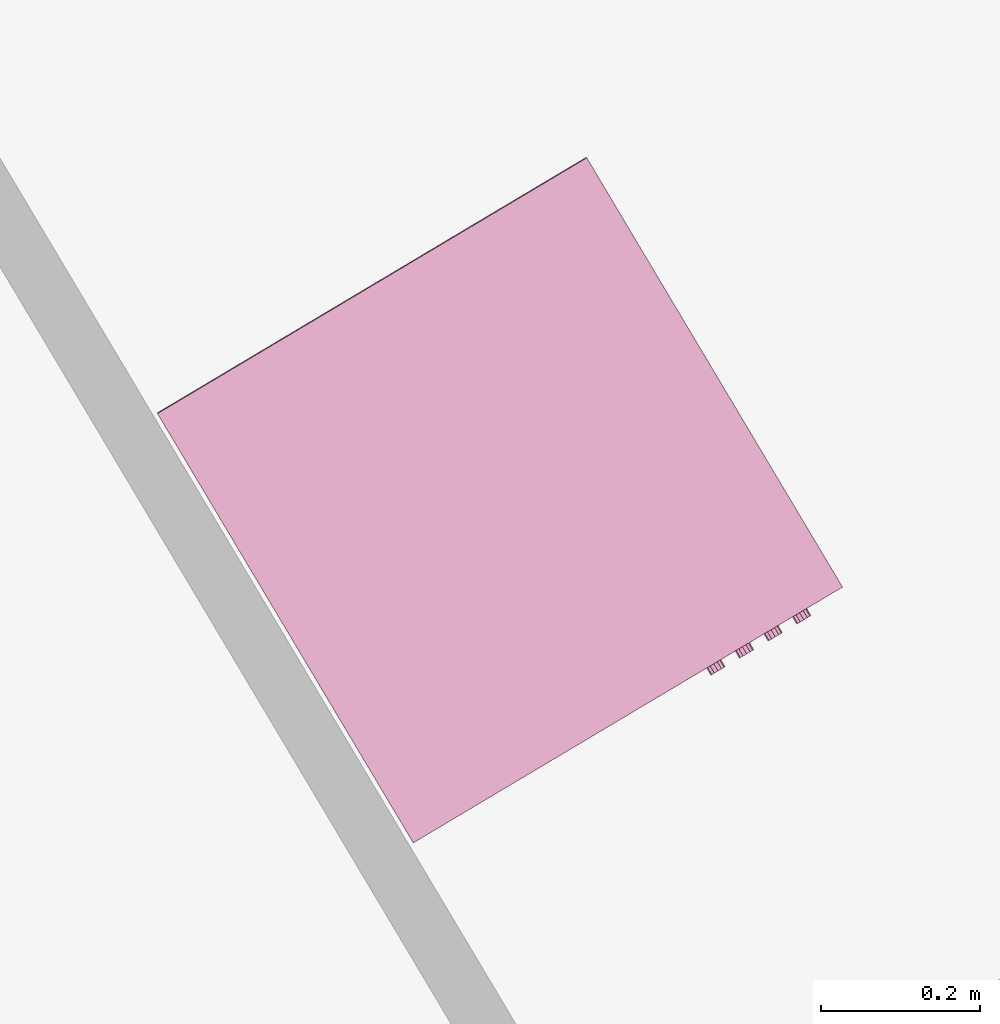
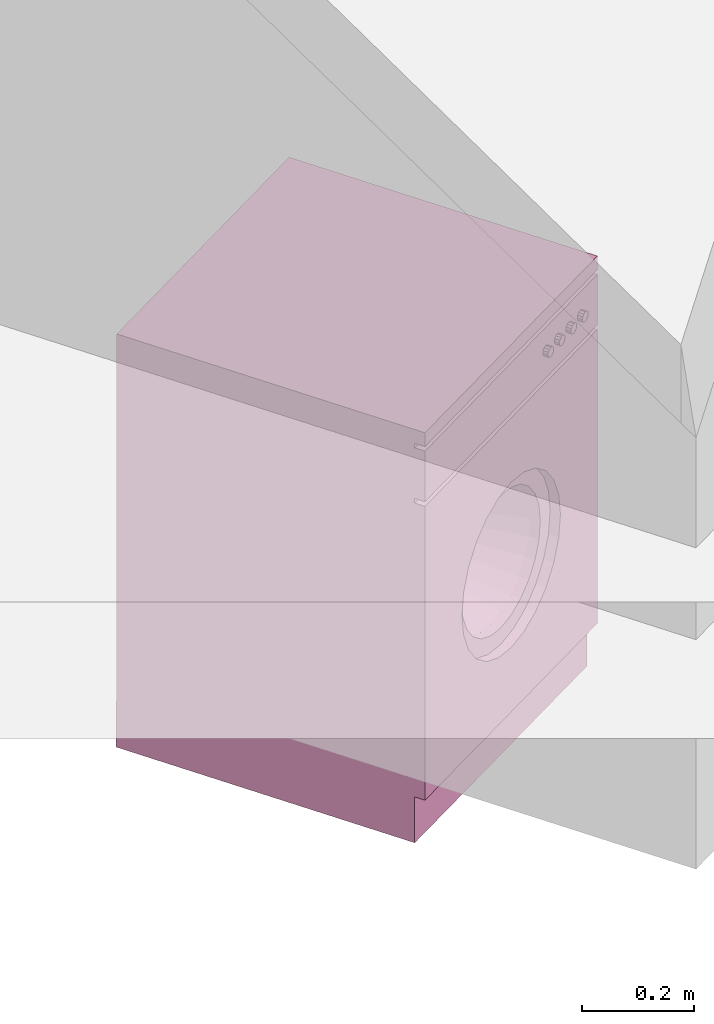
# One storey, part 167 of 195: 1 furnishing.
"""IFC2X3 building model written with IfcOpenShell, lengths in metres."""

import ifcopenshell
import ifcopenshell.guid

model = None  # the IFC model being written
_history = None  # IfcOwnerHistory: only IFC2X3 demands one
_inside = {}  # id of a spatial element -> (the spatial element, [elements in it])
_under = {}  # id of a project, library or spatial element -> (it, [spatial elements below it])
_declared = {}  # id of a project -> (the project, [libraries it declares])
_typed = {}  # id of a type object -> (the type object, [elements of that type])
_made_of = {}  # id of a material, layer set ... -> (it, [elements and type objects made of it])


def new_model(schema):
    """Start an empty IFC model of exactly this schema.

    Asked for "IFC4X3", IfcOpenShell would pick the latest addendum, in which some entities
    have other attributes; the version numbers below select the first issue.
    IFC2X3 requires an IfcOwnerHistory on every rooted entity: one is made here for all.
    """
    global model, _history
    if schema == "IFC4X3":
        model = ifcopenshell.file(schema_version=(4, 3, 0, 0))
    else:
        model = ifcopenshell.file(schema=schema)
    _inside.clear()
    _under.clear()
    _declared.clear()
    _typed.clear()
    _made_of.clear()
    _history = None
    if model.schema == "IFC2X3":
        org = make("IfcOrganization", Name="unknown")
        user = make(
            "IfcPersonAndOrganization",
            ThePerson=make("IfcPerson", FamilyName="unknown"),
            TheOrganization=org,
        )
        app = make(
            "IfcApplication",
            ApplicationDeveloper=org,
            Version="unknown",
            ApplicationFullName="unknown",
            ApplicationIdentifier="unknown",
        )
        _history = make(
            "IfcOwnerHistory",
            OwningUser=user,
            OwningApplication=app,
            ChangeAction="ADDED",
            CreationDate=0,
        )
    return model


def make(cls, **values):
    """One entity of the class cls with the attributes given. An attribute that is None is left unset."""
    return model.create_entity(
        cls, **{name: value for name, value in values.items() if value is not None}
    )


def entity(cls, *values):
    """Any entity or typed value of the class cls, its attributes in the order of the schema. None: left unset."""
    e = model.create_entity(cls)
    for i, value in enumerate(values):
        if value is not None:
            e[i] = value
    return e


def rooted(cls, **values):
    """An entity with a GlobalId (a new one), such as an element, a storey or a relation."""
    return make(cls, GlobalId=ifcopenshell.guid.new(), OwnerHistory=_history, **values)


def si_unit(unit_type, name, prefix=None):
    """IfcSIUnit, for example si_unit("LENGTHUNIT", "METRE", prefix="MILLI")."""
    return make("IfcSIUnit", UnitType=unit_type, Prefix=prefix, Name=name)


def converted_unit(unit_type, name, factor, base, dimensions=None, offset=None):
    """IfcConversionBasedUnit, such as the inch: factor (a typed value) times the base unit."""
    return make(
        "IfcConversionBasedUnit"
        if offset is None
        else "IfcConversionBasedUnitWithOffset",
        ConversionOffset=offset,
        Dimensions=None
        if dimensions is None
        else entity("IfcDimensionalExponents", *dimensions),
        UnitType=unit_type,
        Name=name,
        ConversionFactor=make(
            "IfcMeasureWithUnit", ValueComponent=factor, UnitComponent=base
        ),
    )


def derived_unit(unit_type, elements):
    """IfcDerivedUnit: a product of units, each with its exponent."""
    return make(
        "IfcDerivedUnit",
        Elements=[
            make("IfcDerivedUnitElement", Unit=unit, Exponent=power)
            for unit, power in elements
        ],
        UnitType=unit_type,
    )


def money_unit(currency):
    """IfcMonetaryUnit."""
    return make("IfcMonetaryUnit", Currency=currency)


def assignment(units):
    """IfcUnitAssignment: the units of a project."""
    return None if units is None else make("IfcUnitAssignment", Units=units)


def point(xyz):
    """IfcCartesianPoint."""
    return None if xyz is None else make("IfcCartesianPoint", Coordinates=xyz)


def direction(xyz):
    """IfcDirection."""
    return None if xyz is None else make("IfcDirection", DirectionRatios=xyz)


def frame(location, z_axis=None, x_axis=None):
    """IfcAxis2Placement3D, a coordinate frame: its origin and axes. An axis left out is left unset."""
    return make(
        "IfcAxis2Placement3D",
        Location=point(location),
        Axis=direction(z_axis),
        RefDirection=direction(x_axis),
    )


def origin_with_axes():
    """The frame at (0, 0, 0) with the z axis (0, 0, 1) and the x axis (1, 0, 0) written out."""
    return frame((0.0, 0.0, 0.0), z_axis=(0.0, 0.0, 1.0), x_axis=(1.0, 0.0, 0.0))


def place(relative_to, where):
    """IfcLocalPlacement: puts the frame where relative to a parent placement (None: the world)."""
    return make(
        "IfcLocalPlacement", PlacementRelTo=relative_to, RelativePlacement=where
    )


def context(
    kind, dimensions, precision=None, world=None, true_north=None, identifier=None
):
    """IfcGeometricRepresentationContext, for example the 3D "Model" context."""
    return make(
        "IfcGeometricRepresentationContext",
        ContextIdentifier=identifier,
        ContextType=kind,
        CoordinateSpaceDimension=dimensions,
        Precision=precision,
        WorldCoordinateSystem=world,
        TrueNorth=true_north,
    )


def subcontext(parent, identifier, kind, view, scale=None):
    """IfcGeometricRepresentationSubContext, for example "Body" below "Model"."""
    return make(
        "IfcGeometricRepresentationSubContext",
        ContextIdentifier=identifier,
        ContextType=kind,
        ParentContext=parent,
        TargetScale=scale,
        TargetView=view,
    )


def project(units=None, contexts=None):
    """IfcProject with its units and contexts."""
    return rooted(
        "IfcProject",
        Name="project",
        RepresentationContexts=contexts,
        UnitsInContext=assignment(units),
    )


def spatial(cls, under=None, at=None, **own):
    """A site, building, storey or space (cls), placed at a placement, below another one or the project."""
    s = rooted(cls, ObjectPlacement=at, **own)
    if under is not None:
        _under.setdefault(under.id(), (under, []))[1].append(s)
    return s


def faces_of(points, faces, orient=None, outer=None):
    """IfcFace entities. A face is a list of loops; a loop is a list of indices into points, from 0.

    orient and outer hold one flag for each loop. By default every Orientation is true, the
    first loop of a face is its IfcFaceOuterBound and the others are IfcFaceBound.
    """
    made = []
    for i, loops in enumerate(faces):
        bounds = []
        for j, loop in enumerate(loops):
            is_outer = j == 0 if outer is None else outer[i][j]
            bounds.append(
                make(
                    "IfcFaceOuterBound" if is_outer else "IfcFaceBound",
                    Bound=make("IfcPolyLoop", Polygon=[points[k] for k in loop]),
                    Orientation=True if orient is None else orient[i][j],
                )
            )
        made.append(make("IfcFace", Bounds=bounds))
    return made


def open_shell(faces, orient=None, outer=None):
    """The faces of one IfcOpenShell. surface_model builds it on its shared points."""
    return ("IfcOpenShell", faces, orient, outer)


def faceted_brep(points, faces, orient=None, outer=None, voids=None):
    """IfcFacetedBrep: a solid bounded by flat faces; with voids (closed shells), ...WithVoids."""
    shared = [point(p) for p in points]
    hull = make("IfcClosedShell", CfsFaces=faces_of(shared, faces, orient, outer))
    if voids is None:
        return make("IfcFacetedBrep", Outer=hull)
    return make(
        "IfcFacetedBrepWithVoids",
        Outer=hull,
        Voids=[
            make(cls, CfsFaces=faces_of(shared, fs, o, b)) for cls, fs, o, b in voids
        ],
    )


def surface_model(cls, points, shells):
    """IfcFaceBasedSurfaceModel or IfcShellBasedSurfaceModel (cls): surfaces that need not close."""
    shared = [point(p) for p in points]
    made = [make(c, CfsFaces=faces_of(shared, fs, o, b)) for c, fs, o, b in shells]
    if cls == "IfcFaceBasedSurfaceModel":
        return make(cls, FbsmFaces=made)
    return make(cls, SbsmBoundary=made)


def shape(context_of_items, identifier, shape_type, items):
    """IfcShapeRepresentation: the items that make up one representation, for example the "Body"."""
    return make(
        "IfcShapeRepresentation",
        ContextOfItems=context_of_items,
        RepresentationIdentifier=identifier,
        RepresentationType=shape_type,
        Items=items,
    )


def made_of(thing, what):
    """Note that an element or type object is made of a material, layer set ...; save() writes the relation."""
    if what is not None:
        _made_of.setdefault(what.id(), (what, []))[1].append(thing)
    return thing


def type_object(cls, material=None, **own):
    """A type object (cls), such as IfcWallType, which elements share."""
    return made_of(rooted(cls, **own), material)


def element(
    cls,
    number,
    at=None,
    inside=None,
    cuts=None,
    type_object=None,
    material=None,
    context=None,
    identifier="Body",
    shape_type=None,
    held_by="IfcProductDefinitionShape",
    body=None,
    shapes=None,
    **own,
):
    """One element of the class cls, such as IfcWall. Its Tag is "e" and its number.

    at: its placement. inside: the storey or other place that contains it. cuts: it is an
    opening in that element (IfcRelVoidsElement). A single representation is given by context,
    identifier, shape_type and body (its items); several are given by shapes. held_by: the class
    of the entity that holds the representations. save() writes the other relations.
    """
    e = rooted(cls, Tag="e%d" % number, ObjectPlacement=at, **own)
    if body is not None:
        shapes = [shape(context, identifier, shape_type, body)]
    if shapes is not None:
        e.Representation = make(held_by, Representations=shapes)
    if inside is not None:
        _inside.setdefault(inside.id(), (inside, []))[1].append(e)
    if cuts is not None:
        rooted(
            "IfcRelVoidsElement", RelatingBuildingElement=cuts, RelatedOpeningElement=e
        )
    if type_object is not None:
        _typed.setdefault(type_object.id(), (type_object, []))[1].append(e)
    return made_of(e, material)


def aggregate(whole, parts):
    """IfcRelAggregates: a whole, such as a stair, and the parts it consists of."""
    return rooted("IfcRelAggregates", RelatingObject=whole, RelatedObjects=parts)


def save(model, path):
    """Write the relations noted so far, then the file.

    IfcRelAggregates (storeys below a building ...), IfcRelContainedInSpatialStructure (elements
    in a storey), IfcRelDefinesByType, IfcRelAssociatesMaterial and IfcRelDeclares: one each for
    every whole, place, type object, material and project.
    """
    for whole, parts in _under.values():
        aggregate(whole, parts)
    for where, things in _inside.values():
        rooted(
            "IfcRelContainedInSpatialStructure",
            RelatedElements=things,
            RelatingStructure=where,
        )
    for kind, things in _typed.values():
        rooted("IfcRelDefinesByType", RelatedObjects=things, RelatingType=kind)
    for what, things in _made_of.values():
        rooted("IfcRelAssociatesMaterial", RelatedObjects=things, RelatingMaterial=what)
    for by, libraries in _declared.values():
        rooted("IfcRelDeclares", RelatingContext=by, RelatedDefinitions=libraries)
    model.write(path)


model = new_model("IFC2X3")

# Units and contexts
model_context = context("Model", 3, precision=1e-05, world=origin_with_axes(), true_north=direction((0.0, 1.0)))
body_context = subcontext(model_context, "Body", "Model", "MODEL_VIEW")
ifc_project = project(units=[si_unit("LENGTHUNIT", "METRE"), si_unit("AREAUNIT", "SQUARE_METRE"), si_unit("VOLUMEUNIT", "CUBIC_METRE"), converted_unit("PLANEANGLEUNIT", "DEGREE", entity("IfcPlaneAngleMeasure", 0.0174532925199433), si_unit("PLANEANGLEUNIT", "RADIAN"), dimensions=[0, 0, 0, 0, 0, 0, 0]), money_unit("CHF"), converted_unit("TIMEUNIT", "Year", entity("IfcTimeMeasure", 31557600.0), si_unit("TIMEUNIT", "SECOND"), dimensions=[0, 0, 1, 0, 0, 0, 0]), si_unit("MASSUNIT", "GRAM", prefix="KILO"), si_unit("THERMODYNAMICTEMPERATUREUNIT", "DEGREE_CELSIUS"), si_unit("LUMINOUSINTENSITYUNIT", "LUMEN"), si_unit("ENERGYUNIT", "JOULE", prefix="MEGA"), derived_unit("THERMALCONDUCTANCEUNIT", [(si_unit("POWERUNIT", "WATT"), 1), (si_unit("LENGTHUNIT", "METRE"), -1), (si_unit("THERMODYNAMICTEMPERATUREUNIT", "KELVIN"), -1)]), derived_unit("SPECIFICHEATCAPACITYUNIT", [(si_unit("ENERGYUNIT", "JOULE"), 1), (si_unit("MASSUNIT", "GRAM", prefix="KILO"), -1), (si_unit("THERMODYNAMICTEMPERATUREUNIT", "KELVIN"), -1)]), derived_unit("MASSDENSITYUNIT", [(si_unit("MASSUNIT", "GRAM", prefix="KILO"), 1), (si_unit("VOLUMEUNIT", "CUBIC_METRE"), -1)])], contexts=[model_context])

# Site, building, storey
site_placement = place(None, origin_with_axes())
site = spatial("IfcSite", under=ifc_project, at=site_placement, Name="Site", CompositionType="ELEMENT")
building_placement = place(site_placement, origin_with_axes())
building = spatial("IfcBuilding", under=site, at=building_placement, Name="Bâtiment", CompositionType="ELEMENT")
storey_placement = place(building_placement, origin_with_axes())
storey = spatial("IfcBuildingStorey", under=building, at=storey_placement, Name="rdc", CompositionType="ELEMENT", Elevation=0.0)

# Furnishing
furnishing_element_type = type_object("IfcFurnishingElementType", Name="Machine à laver")
furnishing_placement = place(storey_placement, frame((9543.6895981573, -1045.8273831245, 56.8), z_axis=(0.0, 0.0, 1.0), x_axis=(0.8590868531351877, 0.511829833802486, 0.0)))
element("IfcFurnishingElement", 1, at=furnishing_placement, inside=storey, type_object=furnishing_element_type, Name="Obj.-019", context=body_context, shape_type="SurfaceModel", body=[
    faceted_brep([(0.0, 0.021, 0.1), (0.0, 0.0, 0.1), (-0.63, 0.0, 0.1), (-0.63, 0.021, 0.1), (0.0, 0.02100000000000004, 0.74), (0.0, 0.0, 0.74), (-0.63, 0.0, 0.74), (-0.495, 0.0, 0.42), (-0.4888666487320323, 0.0, 0.4665874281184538), (-0.470884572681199, 0.0, 0.51), (-0.4422792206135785, 0.0, 0.5472792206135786), (-0.405, 0.0, 0.575884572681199), (-0.3615874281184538, 0.0, 0.5938666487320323), (-0.3150000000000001, 0.0, 0.6), (-0.2684125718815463, 0.0, 0.5938666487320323), (-0.225, 0.0, 0.575884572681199), (-0.1877207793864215, 0.0, 0.5472792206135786), (-0.1591154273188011, 0.0, 0.5100000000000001), (-0.1411333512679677, 0.0, 0.4665874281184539), (-0.135, 0.0, 0.4200000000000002), (-0.1411333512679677, 0.0, 0.3734125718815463), (-0.159115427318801, 0.0, 0.3300000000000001), (-0.1877207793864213, 0.0, 0.2927207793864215), (-0.2249999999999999, 0.0, 0.2641154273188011), (-0.2684125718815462, 0.0, 0.2461333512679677), (-0.3149999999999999, 0.0, 0.2399999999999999), (-0.3615874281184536, 0.0, 0.2461333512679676), (-0.4049999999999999, 0.0, 0.2641154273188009), (-0.4422792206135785, 0.0, 0.2927207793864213), (-0.470884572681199, 0.0, 0.3299999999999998), (-0.4888666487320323, 0.0, 0.3734125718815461), (-0.63, 0.02100000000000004, 0.74), (-0.495, 0.02100000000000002, 0.42), (-0.4888666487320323, 0.02100000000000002, 0.3734125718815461), (-0.470884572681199, 0.02100000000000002, 0.3299999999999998), (-0.4422792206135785, 0.02100000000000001, 0.2927207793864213), (-0.4049999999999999, 0.02100000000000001, 0.2641154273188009), (-0.3615874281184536, 0.02100000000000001, 0.2461333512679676), (-0.3149999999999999, 0.02100000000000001, 0.2399999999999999), (-0.2684125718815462, 0.02100000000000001, 0.2461333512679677), (-0.2249999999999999, 0.02100000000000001, 0.2641154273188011), (-0.1877207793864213, 0.02100000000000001, 0.2927207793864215), (-0.159115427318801, 0.02100000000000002, 0.3300000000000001), (-0.1411333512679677, 0.02100000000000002, 0.3734125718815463), (-0.135, 0.02100000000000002, 0.4200000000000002), (-0.1411333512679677, 0.02100000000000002, 0.4665874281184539), (-0.1591154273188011, 0.02100000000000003, 0.5100000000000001), (-0.1877207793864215, 0.02100000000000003, 0.5472792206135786), (-0.225, 0.02100000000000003, 0.575884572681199), (-0.2684125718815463, 0.02100000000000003, 0.5938666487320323), (-0.3150000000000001, 0.02100000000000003, 0.6), (-0.3615874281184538, 0.02100000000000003, 0.5938666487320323), (-0.405, 0.02100000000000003, 0.575884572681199), (-0.4422792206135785, 0.02100000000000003, 0.5472792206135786), (-0.470884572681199, 0.02100000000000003, 0.51), (-0.4888666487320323, 0.02100000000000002, 0.4665874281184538)], [[[0, 1, 2, 3]], [[4, 5, 1, 0]], [[1, 5, 6, 2], [7, 8, 9, 10, 11, 12, 13, 14, 15, 16, 17, 18, 19, 20, 21, 22, 23, 24, 25, 26, 27, 28, 29, 30]], [[3, 2, 6, 31]], [[0, 3, 31, 4], [32, 33, 34, 35, 36, 37, 38, 39, 40, 41, 42, 43, 44, 45, 46, 47, 48, 49, 50, 51, 52, 53, 54, 55]], [[31, 6, 5, 4]], [[55, 8, 7, 32]], [[54, 9, 8, 55]], [[53, 10, 9, 54]], [[52, 11, 10, 53]], [[51, 12, 11, 52]], [[50, 13, 12, 51]], [[49, 14, 13, 50]], [[48, 15, 14, 49]], [[47, 16, 15, 48]], [[46, 17, 16, 47]], [[45, 18, 17, 46]], [[44, 19, 18, 45]], [[43, 20, 19, 44]], [[42, 21, 20, 43]], [[41, 22, 21, 42]], [[40, 23, 22, 41]], [[39, 24, 23, 40]], [[38, 25, 24, 39]], [[37, 26, 25, 38]], [[36, 27, 26, 37]], [[35, 28, 27, 36]], [[34, 29, 28, 35]], [[33, 30, 29, 34]], [[32, 7, 30, 33]]]),
    faceted_brep([(-0.495, 0.04200000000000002, 0.42), (-0.495, 0.02100000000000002, 0.42), (-0.4888666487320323, 0.02100000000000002, 0.4665874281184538), (-0.4888666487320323, 0.04200000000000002, 0.4665874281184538), (-0.4888666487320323, 0.04200000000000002, 0.3734125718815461), (-0.4888666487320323, 0.02100000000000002, 0.3734125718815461), (-0.470884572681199, 0.02100000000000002, 0.3299999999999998), (-0.4422792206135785, 0.02100000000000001, 0.2927207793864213), (-0.4049999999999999, 0.02100000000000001, 0.2641154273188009), (-0.3615874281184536, 0.02100000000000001, 0.2461333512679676), (-0.3149999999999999, 0.02100000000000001, 0.2399999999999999), (-0.2684125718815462, 0.02100000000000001, 0.2461333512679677), (-0.2249999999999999, 0.02100000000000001, 0.2641154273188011), (-0.1877207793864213, 0.02100000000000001, 0.2927207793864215), (-0.159115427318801, 0.02100000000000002, 0.3300000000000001), (-0.1411333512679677, 0.02100000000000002, 0.3734125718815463), (-0.135, 0.02100000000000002, 0.4200000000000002), (-0.1411333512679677, 0.02100000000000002, 0.4665874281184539), (-0.1591154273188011, 0.02100000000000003, 0.5100000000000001), (-0.1877207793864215, 0.02100000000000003, 0.5472792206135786), (-0.225, 0.02100000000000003, 0.575884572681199), (-0.2684125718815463, 0.02100000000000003, 0.5938666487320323), (-0.3150000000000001, 0.02100000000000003, 0.6), (-0.3615874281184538, 0.02100000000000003, 0.5938666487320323), (-0.405, 0.02100000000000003, 0.575884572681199), (-0.4422792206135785, 0.02100000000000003, 0.5472792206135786), (-0.470884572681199, 0.02100000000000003, 0.51), (-0.459, 0.02100000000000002, 0.42), (-0.4540933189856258, 0.02100000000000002, 0.4572699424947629), (-0.4397076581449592, 0.02100000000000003, 0.492), (-0.4168233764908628, 0.02100000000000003, 0.5218233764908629), (-0.387, 0.02100000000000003, 0.5447076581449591), (-0.352269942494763, 0.02100000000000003, 0.5590933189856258), (-0.3150000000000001, 0.02100000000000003, 0.564), (-0.277730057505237, 0.02100000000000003, 0.5590933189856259), (-0.243, 0.02100000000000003, 0.5447076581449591), (-0.2131766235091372, 0.02100000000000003, 0.5218233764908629), (-0.1902923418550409, 0.02100000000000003, 0.4920000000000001), (-0.1759066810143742, 0.02100000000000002, 0.457269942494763), (-0.171, 0.02100000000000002, 0.42), (-0.1759066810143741, 0.02100000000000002, 0.3827300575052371), (-0.1902923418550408, 0.02100000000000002, 0.3480000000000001), (-0.2131766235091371, 0.02100000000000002, 0.3181766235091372), (-0.2429999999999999, 0.02100000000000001, 0.2952923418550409), (-0.2777300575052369, 0.02100000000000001, 0.2809066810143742), (-0.3149999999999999, 0.02100000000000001, 0.276), (-0.3522699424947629, 0.02100000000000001, 0.2809066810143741), (-0.3869999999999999, 0.02100000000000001, 0.2952923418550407), (-0.4168233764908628, 0.02100000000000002, 0.3181766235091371), (-0.4397076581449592, 0.02100000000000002, 0.3479999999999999), (-0.4540933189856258, 0.02100000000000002, 0.3827300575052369), (-0.470884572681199, 0.04200000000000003, 0.51), (-0.4422792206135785, 0.04200000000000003, 0.5472792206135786), (-0.405, 0.04200000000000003, 0.575884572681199), (-0.3615874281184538, 0.04200000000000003, 0.5938666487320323), (-0.3150000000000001, 0.04200000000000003, 0.6), (-0.2684125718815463, 0.04200000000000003, 0.5938666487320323), (-0.225, 0.04200000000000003, 0.575884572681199), (-0.1877207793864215, 0.04200000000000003, 0.5472792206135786), (-0.1591154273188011, 0.04200000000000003, 0.5100000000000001), (-0.1411333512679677, 0.04200000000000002, 0.4665874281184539), (-0.135, 0.04200000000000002, 0.4200000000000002), (-0.1411333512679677, 0.04200000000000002, 0.3734125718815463), (-0.159115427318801, 0.04200000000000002, 0.3300000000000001), (-0.1877207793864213, 0.04200000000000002, 0.2927207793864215), (-0.2249999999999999, 0.04200000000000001, 0.2641154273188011), (-0.2684125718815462, 0.04200000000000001, 0.2461333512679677), (-0.3149999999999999, 0.04200000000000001, 0.2399999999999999), (-0.3615874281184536, 0.04200000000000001, 0.2461333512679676), (-0.4049999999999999, 0.04200000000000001, 0.2641154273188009), (-0.4422792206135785, 0.04200000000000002, 0.2927207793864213), (-0.470884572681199, 0.04200000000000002, 0.3299999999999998), (-0.459, 0.04200000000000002, 0.42), (-0.4540933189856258, 0.04200000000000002, 0.3827300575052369), (-0.4397076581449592, 0.04200000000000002, 0.3479999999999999), (-0.4168233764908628, 0.04200000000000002, 0.3181766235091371), (-0.3869999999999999, 0.04200000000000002, 0.2952923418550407), (-0.3522699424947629, 0.04200000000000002, 0.2809066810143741), (-0.3149999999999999, 0.04200000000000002, 0.276), (-0.2777300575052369, 0.04200000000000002, 0.2809066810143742), (-0.2429999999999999, 0.04200000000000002, 0.2952923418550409), (-0.2131766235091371, 0.04200000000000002, 0.3181766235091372), (-0.1902923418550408, 0.04200000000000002, 0.3480000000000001), (-0.1759066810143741, 0.04200000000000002, 0.3827300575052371), (-0.171, 0.04200000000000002, 0.42), (-0.1759066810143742, 0.04200000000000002, 0.457269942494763), (-0.1902923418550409, 0.04200000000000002, 0.4920000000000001), (-0.2131766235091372, 0.04200000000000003, 0.5218233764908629), (-0.243, 0.04200000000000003, 0.5447076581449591), (-0.277730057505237, 0.04200000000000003, 0.5590933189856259), (-0.3150000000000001, 0.04200000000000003, 0.564), (-0.352269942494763, 0.04200000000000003, 0.5590933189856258), (-0.387, 0.04200000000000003, 0.5447076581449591), (-0.4168233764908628, 0.04200000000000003, 0.5218233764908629), (-0.4397076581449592, 0.04200000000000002, 0.492), (-0.4540933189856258, 0.04200000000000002, 0.4572699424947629)], [[[0, 1, 2, 3]], [[4, 5, 1, 0]], [[1, 5, 6, 7, 8, 9, 10, 11, 12, 13, 14, 15, 16, 17, 18, 19, 20, 21, 22, 23, 24, 25, 26, 2], [27, 28, 29, 30, 31, 32, 33, 34, 35, 36, 37, 38, 39, 40, 41, 42, 43, 44, 45, 46, 47, 48, 49, 50]], [[3, 2, 26, 51]], [[0, 3, 51, 52, 53, 54, 55, 56, 57, 58, 59, 60, 61, 62, 63, 64, 65, 66, 67, 68, 69, 70, 71, 4], [72, 73, 74, 75, 76, 77, 78, 79, 80, 81, 82, 83, 84, 85, 86, 87, 88, 89, 90, 91, 92, 93, 94, 95]], [[71, 6, 5, 4]], [[70, 7, 6, 71]], [[69, 8, 7, 70]], [[68, 9, 8, 69]], [[67, 10, 9, 68]], [[66, 11, 10, 67]], [[65, 12, 11, 66]], [[64, 13, 12, 65]], [[63, 14, 13, 64]], [[62, 15, 14, 63]], [[61, 16, 15, 62]], [[60, 17, 16, 61]], [[59, 18, 17, 60]], [[58, 19, 18, 59]], [[57, 20, 19, 58]], [[56, 21, 20, 57]], [[55, 22, 21, 56]], [[54, 23, 22, 55]], [[53, 24, 23, 54]], [[52, 25, 24, 53]], [[51, 26, 25, 52]], [[95, 28, 27, 72]], [[94, 29, 28, 95]], [[93, 30, 29, 94]], [[92, 31, 30, 93]], [[91, 32, 31, 92]], [[90, 33, 32, 91]], [[89, 34, 33, 90]], [[88, 35, 34, 89]], [[87, 36, 35, 88]], [[86, 37, 36, 87]], [[85, 38, 37, 86]], [[84, 39, 38, 85]], [[83, 40, 39, 84]], [[82, 41, 40, 83]], [[81, 42, 41, 82]], [[80, 43, 42, 81]], [[79, 44, 43, 80]], [[78, 45, 44, 79]], [[77, 46, 45, 78]], [[76, 47, 46, 77]], [[75, 48, 47, 76]], [[74, 49, 48, 75]], [[73, 50, 49, 74]], [[72, 27, 50, 73]]]),
    surface_model("IfcShellBasedSurfaceModel", [(-0.277730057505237, 0.04200000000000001, 0.5590933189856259), (-0.2870475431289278, 0.147, 0.5243199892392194), (-0.315, 0.147, 0.528), (-0.315, 0.04200000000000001, 0.5640000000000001), (-0.243, 0.04200000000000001, 0.5447076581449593), (-0.261, 0.147, 0.5135307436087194), (-0.2386324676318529, 0.147, 0.4963675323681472), (-0.2214692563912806, 0.147, 0.4740000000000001), (-0.2106800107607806, 0.147, 0.4479524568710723), (-0.207, 0.147, 0.4200000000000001), (-0.2106800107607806, 0.147, 0.3920475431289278), (-0.2214692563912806, 0.147, 0.366), (-0.2386324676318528, 0.147, 0.343632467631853), (-0.261, 0.147, 0.3264692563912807), (-0.2870475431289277, 0.147, 0.3156800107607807), (-0.3149999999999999, 0.147, 0.312), (-0.3429524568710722, 0.147, 0.3156800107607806), (-0.3689999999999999, 0.147, 0.3264692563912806), (-0.3913675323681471, 0.147, 0.3436324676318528), (-0.4085307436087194, 0.147, 0.366), (-0.4193199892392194, 0.147, 0.3920475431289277), (-0.423, 0.147, 0.42), (-0.4193199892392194, 0.147, 0.4479524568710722), (-0.4085307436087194, 0.147, 0.474), (-0.3913675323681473, 0.147, 0.4963675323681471), (-0.3690000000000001, 0.147, 0.5135307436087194), (-0.3429524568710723, 0.147, 0.5243199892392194), (-0.3522699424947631, 0.04200000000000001, 0.5590933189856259), (-0.2131766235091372, 0.042, 0.5218233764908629), (-0.1902923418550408, 0.042, 0.492), (-0.1759066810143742, 0.042, 0.457269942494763), (-0.171, 0.042, 0.4200000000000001), (-0.1759066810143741, 0.042, 0.3827300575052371), (-0.1902923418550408, 0.042, 0.3480000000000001), (-0.2131766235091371, 0.042, 0.3181766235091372), (-0.2429999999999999, 0.04199999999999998, 0.2952923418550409), (-0.2777300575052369, 0.04199999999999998, 0.2809066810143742), (-0.3149999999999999, 0.04199999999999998, 0.276), (-0.3522699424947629, 0.04199999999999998, 0.2809066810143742), (-0.387, 0.04199999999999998, 0.2952923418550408), (-0.4168233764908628, 0.042, 0.3181766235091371), (-0.4397076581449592, 0.042, 0.3479999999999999), (-0.4540933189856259, 0.042, 0.382730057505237), (-0.4590000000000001, 0.042, 0.4199999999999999), (-0.4540933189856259, 0.042, 0.4572699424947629), (-0.4397076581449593, 0.042, 0.492), (-0.416823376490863, 0.042, 0.5218233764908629), (-0.3870000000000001, 0.04200000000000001, 0.5447076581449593)], [open_shell([[[0, 1, 2, 3]], [[4, 5, 1, 0]], [[2, 1, 5, 6, 7, 8, 9, 10, 11, 12, 13, 14, 15, 16, 17, 18, 19, 20, 21, 22, 23, 24, 25, 26]], [[3, 2, 26, 27]], [[28, 6, 5, 4]], [[29, 7, 6, 28]], [[30, 8, 7, 29]], [[31, 9, 8, 30]], [[32, 10, 9, 31]], [[33, 11, 10, 32]], [[34, 12, 11, 33]], [[35, 13, 12, 34]], [[36, 14, 13, 35]], [[37, 15, 14, 36]], [[38, 16, 15, 37]], [[39, 17, 16, 38]], [[40, 18, 17, 39]], [[41, 19, 18, 40]], [[42, 20, 19, 41]], [[43, 21, 20, 42]], [[44, 22, 21, 43]], [[45, 23, 22, 44]], [[46, 24, 23, 45]], [[47, 25, 24, 46]], [[27, 26, 25, 47]]])]),
    surface_model("IfcShellBasedSurfaceModel", [(0.0, 0.021, 0.1), (0.0, 0.63, 0.09999999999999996), (0.0, 0.63, 0.87), (0.0, 0.02100000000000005, 0.87)], [open_shell([[[0, 1, 2, 3]]])]),
    surface_model("IfcShellBasedSurfaceModel", [(-0.63, 0.02099999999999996, 0.1), (-0.63, 0.6299999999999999, 0.09999999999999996), (-0.63, 0.6299999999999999, 0.87), (-0.63, 0.02100000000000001, 0.87)], [open_shell([[[0, 1, 2, 3]]])]),
    surface_model("IfcShellBasedSurfaceModel", [(0.0, 0.63, 0.1), (-0.63, 0.63, 0.1), (-0.63, 0.63, 0.87), (0.0, 0.63, 0.87)], [open_shell([[[0, 1, 2, 3]]])]),
    faceted_brep([(0.0, 0.021, 0.0), (0.0, 0.021, 0.1), (-0.63, 0.021, 0.1), (-0.63, 0.021, 0.0), (0.0, 0.631, 0.0), (0.0, 0.631, 0.1), (-0.63, 0.631, 0.1), (-0.63, 0.631, 0.0)], [[[0, 1, 2, 3]], [[4, 5, 1, 0]], [[1, 5, 6, 2]], [[3, 2, 6, 7]], [[0, 3, 7, 4]], [[7, 6, 5, 4]]]),
    faceted_brep([(0.0, 0.021, 0.75), (0.0, 0.0, 0.75), (-0.63, 0.0, 0.75), (-0.63, 0.021, 0.75), (0.0, 0.02100000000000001, 0.86), (0.0, 0.0, 0.86), (-0.63, 0.0, 0.86), (-0.63, 0.02100000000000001, 0.86)], [[[0, 1, 2, 3]], [[4, 5, 1, 0]], [[1, 5, 6, 2]], [[3, 2, 6, 7]], [[0, 3, 7, 4]], [[7, 6, 5, 4]]]),
    surface_model("IfcShellBasedSurfaceModel", [(0.0, 0.021, 0.7395), (-0.63, 0.021, 0.7395), (-0.63, 0.02100000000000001, 0.8695), (0.0, 0.02100000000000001, 0.8695)], [open_shell([[[0, 1, 2, 3]]])]),
    faceted_brep([(0.0, 0.0, 0.87), (0.0, 0.0, 0.9), (-0.63, 0.0, 0.9), (-0.63, 0.0, 0.87), (0.0, 0.63, 0.87), (0.0, 0.63, 0.9), (-0.63, 0.63, 0.9), (-0.63, 0.63, 0.87)], [[[0, 1, 2, 3]], [[4, 5, 1, 0]], [[1, 5, 6, 2]], [[3, 2, 6, 7]], [[0, 3, 7, 4]], [[7, 6, 5, 4]]]),
    faceted_brep([(-0.0720932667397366, 0.0, 0.80475), (-0.0735, 0.0, 0.8099999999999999), (-0.07209326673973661, 0.0, 0.8152499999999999), (-0.06825, 0.0, 0.8190932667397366), (-0.063, 0.0, 0.8204999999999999), (-0.05775, 0.0, 0.8190932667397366), (-0.05390673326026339, 0.0, 0.8152499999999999), (-0.0525, 0.0, 0.8099999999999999), (-0.05390673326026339, 0.0, 0.80475), (-0.05775, 0.0, 0.8009067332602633), (-0.06299999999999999, 0.0, 0.7995), (-0.06824999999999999, 0.0, 0.8009067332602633), (-0.0720932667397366, -0.0105, 0.80475), (-0.0735, -0.0105, 0.8099999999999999), (-0.07209326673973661, -0.0105, 0.8152499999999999), (-0.06825, -0.0105, 0.8190932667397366), (-0.063, -0.0105, 0.8204999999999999), (-0.05775, -0.0105, 0.8190932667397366), (-0.05390673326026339, -0.0105, 0.8152499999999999), (-0.0525, -0.0105, 0.8099999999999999), (-0.05390673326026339, -0.0105, 0.80475), (-0.05775, -0.0105, 0.8009067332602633), (-0.06299999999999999, -0.0105, 0.7995), (-0.06824999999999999, -0.0105, 0.8009067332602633)], [[[0, 1, 2, 3, 4, 5, 6, 7, 8, 9, 10, 11]], [[0, 12, 13, 1]], [[1, 13, 14, 2]], [[2, 14, 15, 3]], [[3, 15, 16, 4]], [[4, 16, 17, 5]], [[5, 17, 18, 6]], [[6, 18, 19, 7]], [[7, 19, 20, 8]], [[8, 20, 21, 9]], [[9, 21, 22, 10]], [[10, 22, 23, 11]], [[11, 23, 12, 0]], [[12, 23, 22, 21, 20, 19, 18, 17, 16, 15, 14, 13]]]),
    faceted_brep([(-0.1140932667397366, 0.0, 0.80475), (-0.1155, 0.0, 0.8099999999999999), (-0.1140932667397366, 0.0, 0.8152499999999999), (-0.11025, 0.0, 0.8190932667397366), (-0.105, 0.0, 0.8204999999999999), (-0.09975, 0.0, 0.8190932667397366), (-0.0959067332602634, 0.0, 0.8152499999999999), (-0.09450000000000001, 0.0, 0.8099999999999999), (-0.0959067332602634, 0.0, 0.80475), (-0.09975, 0.0, 0.8009067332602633), (-0.105, 0.0, 0.7995), (-0.11025, 0.0, 0.8009067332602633), (-0.1140932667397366, -0.0105, 0.80475), (-0.1155, -0.0105, 0.8099999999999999), (-0.1140932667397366, -0.0105, 0.8152499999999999), (-0.11025, -0.0105, 0.8190932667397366), (-0.105, -0.0105, 0.8204999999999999), (-0.09975, -0.0105, 0.8190932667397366), (-0.0959067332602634, -0.0105, 0.8152499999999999), (-0.09450000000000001, -0.0105, 0.8099999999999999), (-0.0959067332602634, -0.0105, 0.80475), (-0.09975, -0.0105, 0.8009067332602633), (-0.105, -0.0105, 0.7995), (-0.11025, -0.0105, 0.8009067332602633)], [[[0, 1, 2, 3, 4, 5, 6, 7, 8, 9, 10, 11]], [[0, 12, 13, 1]], [[1, 13, 14, 2]], [[2, 14, 15, 3]], [[3, 15, 16, 4]], [[4, 16, 17, 5]], [[5, 17, 18, 6]], [[6, 18, 19, 7]], [[7, 19, 20, 8]], [[8, 20, 21, 9]], [[9, 21, 22, 10]], [[10, 22, 23, 11]], [[11, 23, 12, 0]], [[12, 23, 22, 21, 20, 19, 18, 17, 16, 15, 14, 13]]]),
    faceted_brep([(-0.1560932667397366, 0.0, 0.80475), (-0.1575, 0.0, 0.8099999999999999), (-0.1560932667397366, 0.0, 0.8152499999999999), (-0.15225, 0.0, 0.8190932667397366), (-0.147, 0.0, 0.8204999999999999), (-0.14175, 0.0, 0.8190932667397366), (-0.1379067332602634, 0.0, 0.8152499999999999), (-0.1365, 0.0, 0.8099999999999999), (-0.1379067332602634, 0.0, 0.80475), (-0.14175, 0.0, 0.8009067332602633), (-0.147, 0.0, 0.7995), (-0.15225, 0.0, 0.8009067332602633), (-0.1560932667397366, -0.0105, 0.80475), (-0.1575, -0.0105, 0.8099999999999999), (-0.1560932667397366, -0.0105, 0.8152499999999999), (-0.15225, -0.0105, 0.8190932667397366), (-0.147, -0.0105, 0.8204999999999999), (-0.14175, -0.0105, 0.8190932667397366), (-0.1379067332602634, -0.0105, 0.8152499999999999), (-0.1365, -0.0105, 0.8099999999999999), (-0.1379067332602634, -0.0105, 0.80475), (-0.14175, -0.0105, 0.8009067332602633), (-0.147, -0.0105, 0.7995), (-0.15225, -0.0105, 0.8009067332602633)], [[[0, 1, 2, 3, 4, 5, 6, 7, 8, 9, 10, 11]], [[0, 12, 13, 1]], [[1, 13, 14, 2]], [[2, 14, 15, 3]], [[3, 15, 16, 4]], [[4, 16, 17, 5]], [[5, 17, 18, 6]], [[6, 18, 19, 7]], [[7, 19, 20, 8]], [[8, 20, 21, 9]], [[9, 21, 22, 10]], [[10, 22, 23, 11]], [[11, 23, 12, 0]], [[12, 23, 22, 21, 20, 19, 18, 17, 16, 15, 14, 13]]]),
    faceted_brep([(-0.1980932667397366, 0.0, 0.80475), (-0.1995, 0.0, 0.8099999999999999), (-0.1980932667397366, 0.0, 0.8152499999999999), (-0.19425, 0.0, 0.8190932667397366), (-0.189, 0.0, 0.8204999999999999), (-0.18375, 0.0, 0.8190932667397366), (-0.1799067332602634, 0.0, 0.8152499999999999), (-0.1785, 0.0, 0.8099999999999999), (-0.1799067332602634, 0.0, 0.80475), (-0.18375, 0.0, 0.8009067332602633), (-0.189, 0.0, 0.7995), (-0.19425, 0.0, 0.8009067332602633), (-0.1980932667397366, -0.0105, 0.80475), (-0.1995, -0.0105, 0.8099999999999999), (-0.1980932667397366, -0.0105, 0.8152499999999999), (-0.19425, -0.0105, 0.8190932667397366), (-0.189, -0.0105, 0.8204999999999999), (-0.18375, -0.0105, 0.8190932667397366), (-0.1799067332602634, -0.0105, 0.8152499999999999), (-0.1785, -0.0105, 0.8099999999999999), (-0.1799067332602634, -0.0105, 0.80475), (-0.18375, -0.0105, 0.8009067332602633), (-0.189, -0.0105, 0.7995), (-0.19425, -0.0105, 0.8009067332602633)], [[[0, 1, 2, 3, 4, 5, 6, 7, 8, 9, 10, 11]], [[0, 12, 13, 1]], [[1, 13, 14, 2]], [[2, 14, 15, 3]], [[3, 15, 16, 4]], [[4, 16, 17, 5]], [[5, 17, 18, 6]], [[6, 18, 19, 7]], [[7, 19, 20, 8]], [[8, 20, 21, 9]], [[9, 21, 22, 10]], [[10, 22, 23, 11]], [[11, 23, 12, 0]], [[12, 23, 22, 21, 20, 19, 18, 17, 16, 15, 14, 13]]]),
])

save(model, "model.ifc")
